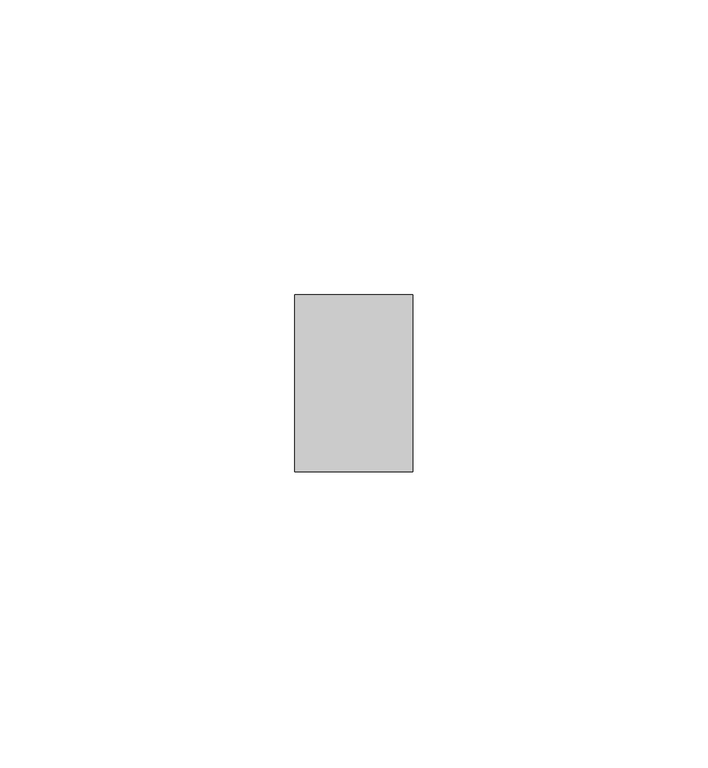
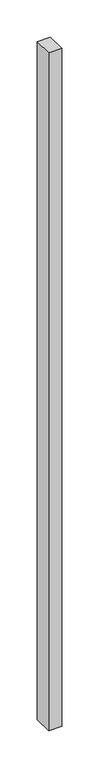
"""IFC4 building model written with IfcOpenShell, lengths in millimetres: member geometry, Прямоугольный импост : Квадрат 10 мм - Зазор между навесными плитами."""

from ifc_helpers import new_model, si_unit, frame, origin, place, context, project, spatial, polyline, outline, extrude, source, transform, mapped, element, save


def member_bc2a37f6(model_context):
    return source(origin(), model_context, "Body", "SweptSolid", [
        extrude(outline(polyline([(0.0, 15.0), (0.0, -15.0), (-20.0, -15.0), (-20.0, 15.0), (0.0, 15.0)])), frame((0.0, 0.0, -1107.5386557), z_axis=(0.0, 0.0, 1.0), x_axis=(1.0, 0.0, 0.0)), (0.0, 0.0, 1.0), 1107.5386557),
    ])


if __name__ == "__main__":
    model = new_model("IFC4")
    model_context = context("Model", 3, world=origin())
    ifc_project = project(units=[si_unit("LENGTHUNIT", "METRE", prefix="MILLI")], contexts=[model_context])
    site = spatial("IfcSite", under=ifc_project)
    building = spatial("IfcBuilding", under=site)
    placement = place(None, origin())
    member_shape = member_bc2a37f6(model_context)
    element("IfcMember", 1, ObjectType="Прямоугольный импост : Квадрат 10 мм - Зазор между навесными плитами", at=placement, inside=building, context=model_context, shape_type="MappedRepresentation", body=[
        mapped(member_shape, transform((0.0, 0.0, 0.0), x_axis=(1.0, 0.0, 0.0), y_axis=(0.0, 1.0, 0.0), z_axis=(0.0, 0.0, 1.0))),
    ])
    save(model, "model.ifc")
